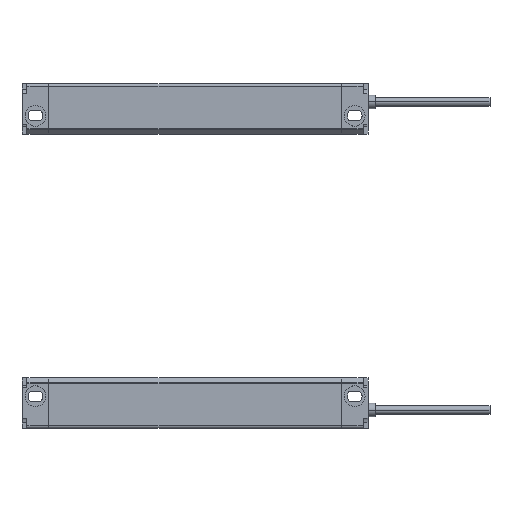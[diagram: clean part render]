
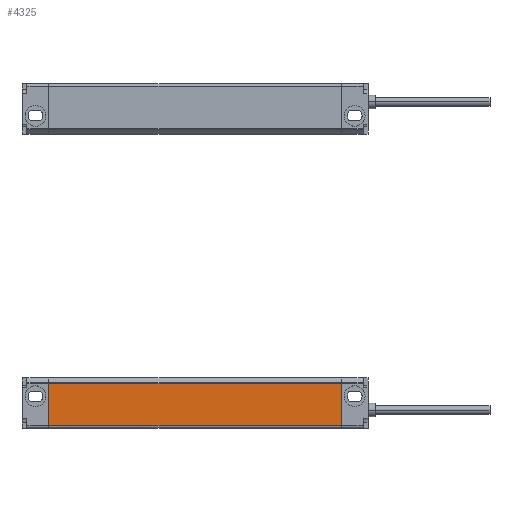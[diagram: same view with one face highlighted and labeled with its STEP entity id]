
A CAD part, left-side view. The second image highlights one B-rep face of the part: STEP entity #4325.
In plain terms, the highlighted planar face has unit normal (-1, 0, 0).
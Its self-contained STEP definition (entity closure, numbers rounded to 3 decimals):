
#165 = LINE ( 'NONE', #10733, #1018 ) ;
#757 = VECTOR ( 'NONE', #2578, 1000. ) ;
#912 = CARTESIAN_POINT ( 'NONE',  ( -12.5, -120., -9.2 ) ) ;
#1018 = VECTOR ( 'NONE', #2310, 1000. ) ;
#1093 = CARTESIAN_POINT ( 'NONE',  ( -12.5, 0., -9.2 ) ) ;
#1407 = LINE ( 'NONE', #2590, #5350 ) ;
#1969 = EDGE_LOOP ( 'NONE', ( #9761, #4562, #8825, #3023 ) ) ;
#2310 = DIRECTION ( 'NONE',  ( 0., 1., 0. ) ) ;
#2578 = DIRECTION ( 'NONE',  ( 0., 0., 1. ) ) ;
#2590 = CARTESIAN_POINT ( 'NONE',  ( -12.5, 0., -9.2 ) ) ;
#2989 = EDGE_CURVE ( 'NONE', #6322, #2998, #9317, .T. ) ;
#2998 = VERTEX_POINT ( 'NONE', #10161 ) ;
#3006 = FACE_OUTER_BOUND ( 'NONE', #1969, .T. ) ;
#3023 = ORIENTED_EDGE ( 'NONE', *, *, #3756, .T. ) ;
#3756 = EDGE_CURVE ( 'NONE', #2998, #8133, #165, .T. ) ;
#4325 = ADVANCED_FACE ( 'NONE', ( #3006 ), #10655, .T. ) ;
#4562 = ORIENTED_EDGE ( 'NONE', *, *, #7936, .F. ) ;
#4797 = DIRECTION ( 'NONE',  ( 0., 0., 1. ) ) ;
#5350 = VECTOR ( 'NONE', #6863, 1000. ) ;
#5396 = VERTEX_POINT ( 'NONE', #1093 ) ;
#6070 = DIRECTION ( 'NONE',  ( 0., 1., 0. ) ) ;
#6322 = VERTEX_POINT ( 'NONE', #6354 ) ;
#6354 = CARTESIAN_POINT ( 'NONE',  ( -12.5, -120., -9.2 ) ) ;
#6760 = CARTESIAN_POINT ( 'NONE',  ( -12.5, -120., -9.2 ) ) ;
#6863 = DIRECTION ( 'NONE',  ( 0., 0., 1. ) ) ;
#7163 = EDGE_CURVE ( 'NONE', #5396, #8133, #1407, .T. ) ;
#7245 = CARTESIAN_POINT ( 'NONE',  ( -12.5, 0., 8.293 ) ) ;
#7572 = DIRECTION ( 'NONE',  ( -1., 0., 0. ) ) ;
#7813 = AXIS2_PLACEMENT_3D ( 'NONE', #6760, #7572, #4797 ) ;
#7936 = EDGE_CURVE ( 'NONE', #6322, #5396, #9801, .T. ) ;
#8133 = VERTEX_POINT ( 'NONE', #7245 ) ;
#8341 = VECTOR ( 'NONE', #6070, 1000. ) ;
#8825 = ORIENTED_EDGE ( 'NONE', *, *, #2989, .T. ) ;
#9317 = LINE ( 'NONE', #912, #757 ) ;
#9761 = ORIENTED_EDGE ( 'NONE', *, *, #7163, .F. ) ;
#9801 = LINE ( 'NONE', #10375, #8341 ) ;
#10161 = CARTESIAN_POINT ( 'NONE',  ( -12.5, -120., 8.293 ) ) ;
#10375 = CARTESIAN_POINT ( 'NONE',  ( -12.5, -120., -9.2 ) ) ;
#10655 = PLANE ( 'NONE',  #7813 ) ;
#10733 = CARTESIAN_POINT ( 'NONE',  ( -12.5, -120., 8.293 ) ) ;
